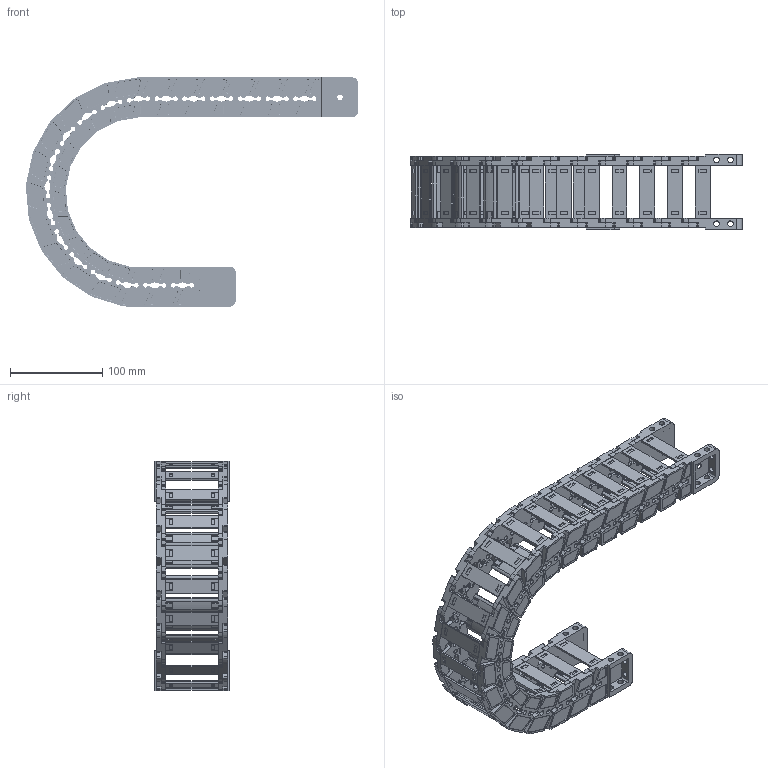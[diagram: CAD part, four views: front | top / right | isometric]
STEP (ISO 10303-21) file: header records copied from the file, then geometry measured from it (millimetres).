
FILE_DESCRIPTION((''),'2;1');
FILE_NAME('JY-35X57-R100_ASM','2025-01-05T19:23:12',('admin'),(''),'CREO PARAMETRIC BY PTC INC, 2021023','CREO PARAMETRIC BY PTC INC, 2021023','');
FILE_SCHEMA(('CONFIG_CONTROL_DESIGN'));
Length unit declared in the file: millimetre
Products named in the file (11): 35XL-L; YP; 35XL-R; ASM0001_ASM; 35-LTT-A-L; 35-LTT-A-R; 35XL-LTT-A_ASM; 35-LTT-B-L; 35-LTT-B-R; 35XL-LTT-B_ASM; JY-35X57-R100_ASM
Assembly tree (32 placements, depth 3):
  JY-35X57-R100_ASM
    ASM0001_ASM  x18
      35XL-L
      YP
      35XL-R
    35XL-LTT-A_ASM
      35-LTT-A-L
      YP  x2
      35-LTT-A-R
    35XL-LTT-B_ASM
      35-LTT-B-L
      YP  x2
      35-LTT-B-R
Bounding box: 359.13 x 81 x 247.81 mm (x, y, z)
Volume: 546805.3 mm3; surface area: 323833.4 mm2
Topology: 80 solids, 80 shells, 6520 faces, 19542 edges, 13190 vertices
Faces by surface type: plane 3688, cylinder 2148, cone 418, extrusion 152, bspline 114
Entity records: 27866 total; most frequent: CARTESIAN_POINT 6165, ORIENTED_EDGE 4640, DIRECTION 4359, EDGE_CURVE 2320, VERTEX_POINT 1568, AXIS2_PLACEMENT_3D 1471, VECTOR 1417, LINE 1401
